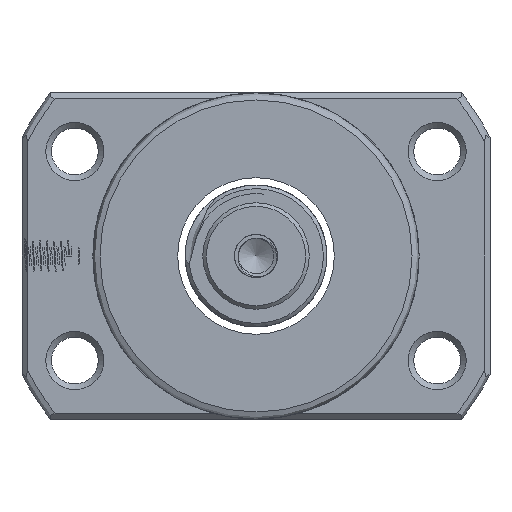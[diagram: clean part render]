
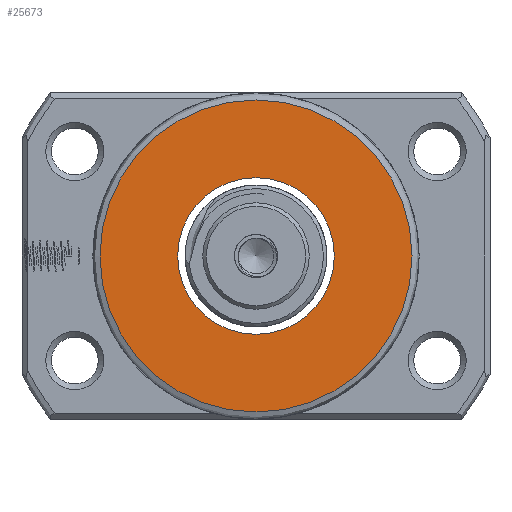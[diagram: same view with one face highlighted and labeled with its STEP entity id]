
A CAD part, left-side view. The second image highlights one B-rep face of the part: STEP entity #25673.
In plain terms, the highlighted planar face has unit normal (-1, 0, 0).
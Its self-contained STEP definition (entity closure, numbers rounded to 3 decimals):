
#655 = AXIS2_PLACEMENT_3D ( 'NONE', #15617, #27723, #12799 ) ;
#783 = CIRCLE ( 'NONE', #27767, 11.05 ) ;
#2046 = EDGE_CURVE ( 'NONE', #28646, #28646, #783, .T. ) ;
#2331 = CARTESIAN_POINT ( 'NONE',  ( -53.324, 0., 0. ) ) ;
#5875 = PLANE ( 'NONE',  #12907 ) ;
#8848 = FACE_OUTER_BOUND ( 'NONE', #26261, .T. ) ;
#11759 = CIRCLE ( 'NONE', #655, 22. ) ;
#11896 = CARTESIAN_POINT ( 'NONE',  ( -53.324, 0., 22. ) ) ;
#12799 = DIRECTION ( 'NONE',  ( 0., 0., 1. ) ) ;
#12907 = AXIS2_PLACEMENT_3D ( 'NONE', #15977, #26249, #26083 ) ;
#15617 = CARTESIAN_POINT ( 'NONE',  ( -53.324, 0., 0. ) ) ;
#15977 = CARTESIAN_POINT ( 'NONE',  ( -53.324, 11.05, 0. ) ) ;
#17039 = EDGE_LOOP ( 'NONE', ( #18117 ) ) ;
#18117 = ORIENTED_EDGE ( 'NONE', *, *, #2046, .F. ) ;
#21446 = FACE_BOUND ( 'NONE', #17039, .T. ) ;
#22860 = DIRECTION ( 'NONE',  ( 0., 0., 1. ) ) ;
#24333 = VERTEX_POINT ( 'NONE', #11896 ) ;
#24850 = DIRECTION ( 'NONE',  ( -1., 0., 0. ) ) ;
#25673 = ADVANCED_FACE ( 'NONE', ( #8848, #21446 ), #5875, .T. ) ;
#26083 = DIRECTION ( 'NONE',  ( 0., 0., 1. ) ) ;
#26249 = DIRECTION ( 'NONE',  ( -1., 0., 0. ) ) ;
#26261 = EDGE_LOOP ( 'NONE', ( #27117 ) ) ;
#26537 = EDGE_CURVE ( 'NONE', #24333, #24333, #11759, .T. ) ;
#27117 = ORIENTED_EDGE ( 'NONE', *, *, #26537, .T. ) ;
#27723 = DIRECTION ( 'NONE',  ( -1., 0., 0. ) ) ;
#27767 = AXIS2_PLACEMENT_3D ( 'NONE', #2331, #24850, #22860 ) ;
#28646 = VERTEX_POINT ( 'NONE', #31145 ) ;
#31145 = CARTESIAN_POINT ( 'NONE',  ( -53.324, 0., 11.05 ) ) ;
